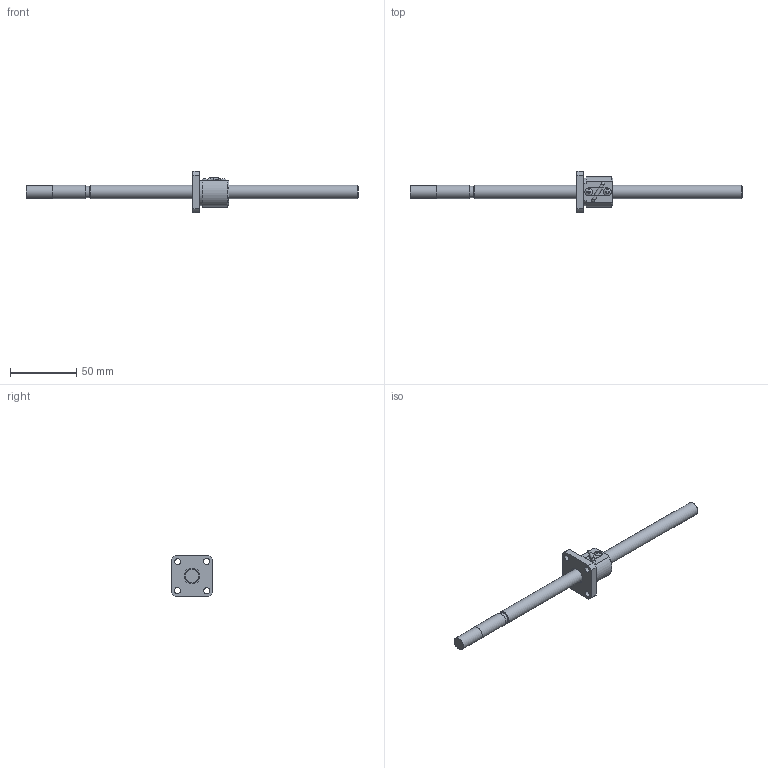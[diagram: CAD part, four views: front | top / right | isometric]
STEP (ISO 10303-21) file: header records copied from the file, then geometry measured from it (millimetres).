
FILE_DESCRIPTION((''),'2;1');
FILE_NAME('D:\製品 (図面)\カタログ用3D\ネジ関連\STEP形式\KBS(C)\KBS(C)1002-250.stp','2010-06-02T09:14:04',('Tsuchiya'),(''),'Autodesk Inventor 10','Autodesk Inventor 10','');
FILE_SCHEMA(('AUTOMOTIVE_DESIGN { 1 0 10303 214 1 1 1 1 }'));
Length unit declared in the file: millimetre
Products named in the file (3): KBS(C)1002-250; KBS(C)1002-2501; KBS(C)1002-2502
Assembly tree (2 placements, depth 2):
  KBS(C)1002-250
    KBS(C)1002-2501
    KBS(C)1002-2502
Bounding box: 250 x 31 x 31 mm (x, y, z)
Volume: 29922.4 mm3; surface area: 13185.8 mm2
Topology: 2 solids, 2 shells, 92 faces, 242 edges, 161 vertices
Faces by surface type: plane 37, cylinder 30, bspline 20, cone 3, torus 2
Full cylindrical faces by diameter (mm): 2.1 x1, 4.5 x4, 5.6 x1, 8.6 x1, 9.7 x1, 10 x3, 12 x2
Entity records: 3099 total; most frequent: CARTESIAN_POINT 910, ORIENTED_EDGE 430, DIRECTION 404, EDGE_CURVE 215, VERTEX_POINT 154, AXIS2_PLACEMENT_3D 146, EDGE_LOOP 135, VECTOR 112
